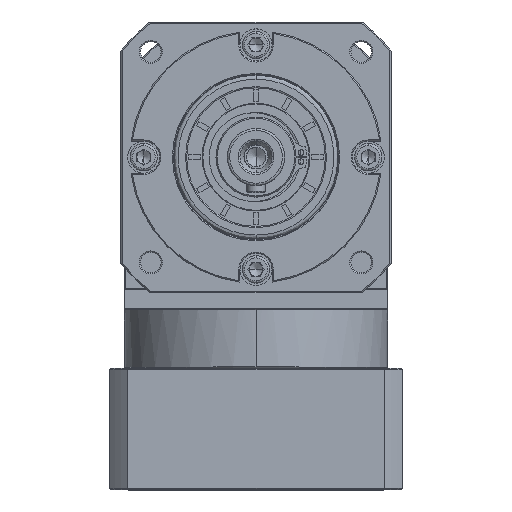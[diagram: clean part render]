
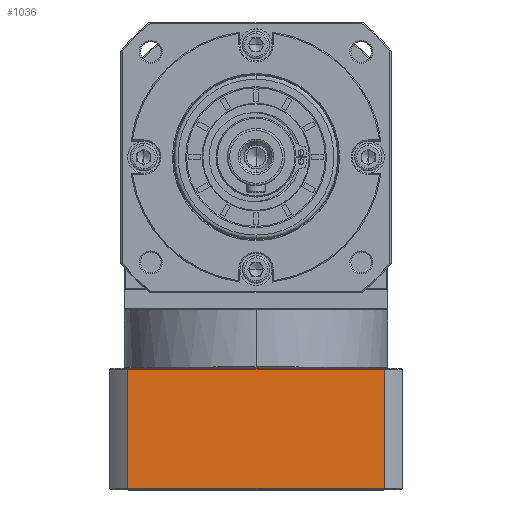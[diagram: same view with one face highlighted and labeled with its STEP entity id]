
A CAD part, top view. The second image highlights one B-rep face of the part: STEP entity #1036.
In plain terms, the highlighted planar face has unit normal (0, 0, 1).
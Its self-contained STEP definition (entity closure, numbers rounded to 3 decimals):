
#1036 = ADVANCED_FACE ( 'NONE', ( #46866 ), #164810, .F. ) ;
#5400 = CARTESIAN_POINT ( 'NONE',  ( -286.283, -135.379, 71.787 ) ) ;
#7391 = CARTESIAN_POINT ( 'NONE',  ( -294.345, -187.879, 71.787 ) ) ;
#8794 = CARTESIAN_POINT ( 'NONE',  ( -286.283, -187.879, 71.787 ) ) ;
#9369 = DIRECTION ( 'NONE',  ( 0., 1., 0. ) ) ;
#18273 = DIRECTION ( 'NONE',  ( 0., -1., 0. ) ) ;
#23391 = DIRECTION ( 'NONE',  ( 0., 0., -1. ) ) ;
#28264 = CARTESIAN_POINT ( 'NONE',  ( -294.345, -135.379, 71.787 ) ) ;
#28326 = EDGE_CURVE ( 'NONE', #74251, #64706, #130945, .T. ) ;
#29667 = AXIS2_PLACEMENT_3D ( 'NONE', #7391, #23391, #128031 ) ;
#30819 = CARTESIAN_POINT ( 'NONE',  ( -174.408, -187.379, 71.787 ) ) ;
#31605 = LINE ( 'NONE', #28264, #49933 ) ;
#34126 = ORIENTED_EDGE ( 'NONE', *, *, #28326, .F. ) ;
#36868 = VECTOR ( 'NONE', #9369, 1000. ) ;
#41631 = CARTESIAN_POINT ( 'NONE',  ( -174.408, 107.942, 71.787 ) ) ;
#42254 = CARTESIAN_POINT ( 'NONE',  ( -294.345, -187.379, 71.787 ) ) ;
#44779 = VERTEX_POINT ( 'NONE', #30819 ) ;
#46866 = FACE_OUTER_BOUND ( 'NONE', #135045, .T. ) ;
#49189 = CARTESIAN_POINT ( 'NONE',  ( -174.408, -135.379, 71.787 ) ) ;
#49933 = VECTOR ( 'NONE', #159377, 1000. ) ;
#55617 = VECTOR ( 'NONE', #18273, 1000. ) ;
#57969 = VECTOR ( 'NONE', #119533, 1000. ) ;
#64706 = VERTEX_POINT ( 'NONE', #5400 ) ;
#72327 = VERTEX_POINT ( 'NONE', #49189 ) ;
#74251 = VERTEX_POINT ( 'NONE', #121613 ) ;
#90866 = LINE ( 'NONE', #42254, #57969 ) ;
#94608 = LINE ( 'NONE', #41631, #55617 ) ;
#95824 = EDGE_CURVE ( 'NONE', #72327, #44779, #94608, .T. ) ;
#99513 = ORIENTED_EDGE ( 'NONE', *, *, #141846, .F. ) ;
#110274 = ORIENTED_EDGE ( 'NONE', *, *, #142367, .F. ) ;
#119533 = DIRECTION ( 'NONE',  ( -1., 0., 0. ) ) ;
#121613 = CARTESIAN_POINT ( 'NONE',  ( -286.283, -187.379, 71.787 ) ) ;
#128031 = DIRECTION ( 'NONE',  ( -1., 0., 0. ) ) ;
#130945 = LINE ( 'NONE', #8794, #36868 ) ;
#135045 = EDGE_LOOP ( 'NONE', ( #162914, #99513, #34126, #110274 ) ) ;
#141846 = EDGE_CURVE ( 'NONE', #64706, #72327, #31605, .T. ) ;
#142367 = EDGE_CURVE ( 'NONE', #44779, #74251, #90866, .T. ) ;
#159377 = DIRECTION ( 'NONE',  ( 1., 0., 0. ) ) ;
#162914 = ORIENTED_EDGE ( 'NONE', *, *, #95824, .F. ) ;
#164810 = PLANE ( 'NONE',  #29667 ) ;
